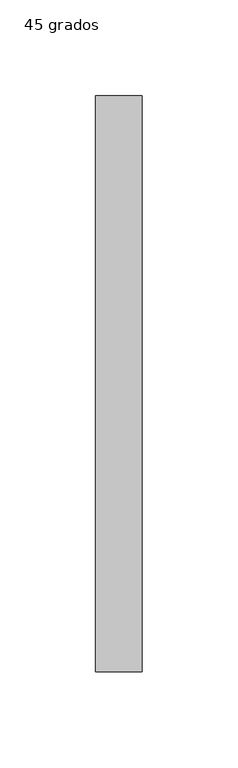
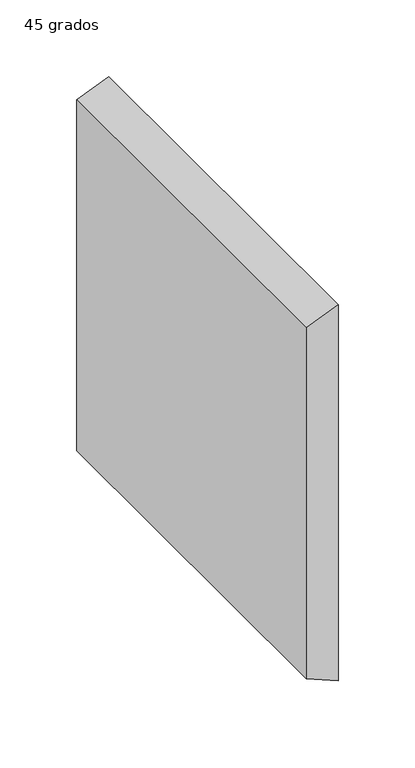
"""IFC4 building model written with IfcOpenShell, lengths in millimetres: duct fitting geometry, M_Transición rectangular - Ángulo : 45 grados."""

from ifc_helpers import new_model, si_unit, frame, origin, place, context, project, spatial, polyline, outline, extrude, source, transform, mapped, element, save


def duct_fitting_45_grados_f90a5325(model_context):
    return source(origin(), model_context, "Body", "SweptSolid", [
        extrude(outline(polyline([(140.0, 0.0), (-140.0, 0.0), (-150.0, 24.1421356), (150.0, 24.1421356), (140.0, 0.0)])), frame((0.0, -150.0, 0.0), z_axis=(0.0, 1.0, 0.0), x_axis=(0.0, 0.0, 1.0)), (0.0, 0.0, 1.0), 300.0),
    ])


if __name__ == "__main__":
    model = new_model("IFC4")
    model_context = context("Model", 3, world=origin())
    ifc_project = project(units=[si_unit("LENGTHUNIT", "METRE", prefix="MILLI")], contexts=[model_context])
    site = spatial("IfcSite", under=ifc_project)
    building = spatial("IfcBuilding", under=site)
    placement = place(None, origin())
    duct_fitting_45_grados_shape = duct_fitting_45_grados_f90a5325(model_context)
    element("IfcDuctFitting", 1, ObjectType="M_Transición rectangular - Ángulo : 45 grados", at=placement, inside=building, context=model_context, shape_type="MappedRepresentation", body=[
        mapped(duct_fitting_45_grados_shape, transform((0.0, 0.0, 0.0), x_axis=(1.0, 0.0, 0.0), y_axis=(0.0, 1.0, 0.0), z_axis=(0.0, 0.0, 1.0))),
    ])
    save(model, "model.ifc")
